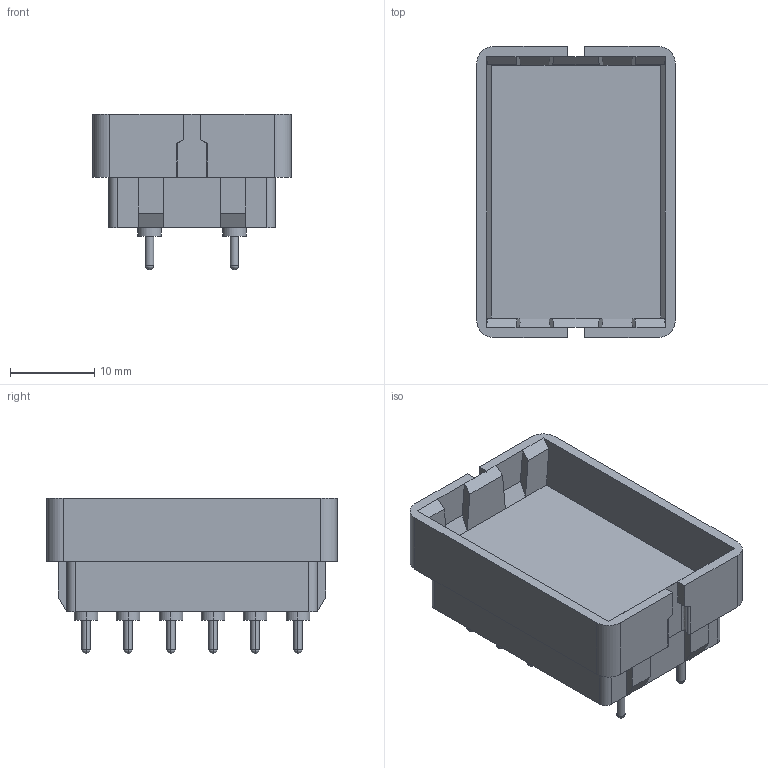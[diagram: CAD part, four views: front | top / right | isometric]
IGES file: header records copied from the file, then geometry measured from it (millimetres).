
Global section: file name: No Iges File Name specified; native system: Autodesk Inventor 2009; preprocessor: AutoDesk Inventor Iges Exporter R2009; author: Niriawan; date: 20080813.125158; units: millimetre
Bounding box: 23.6 x 34.6 x 18.5 mm (x, y, z)
Volume: 5817.8 mm3; surface area: 3926.4 mm2
Topology: 1 solids, 1 shells, 165 faces, 408 edges, 246 vertices
Faces by surface type: plane 89, cylinder 52, sphere 20, revolution 4
